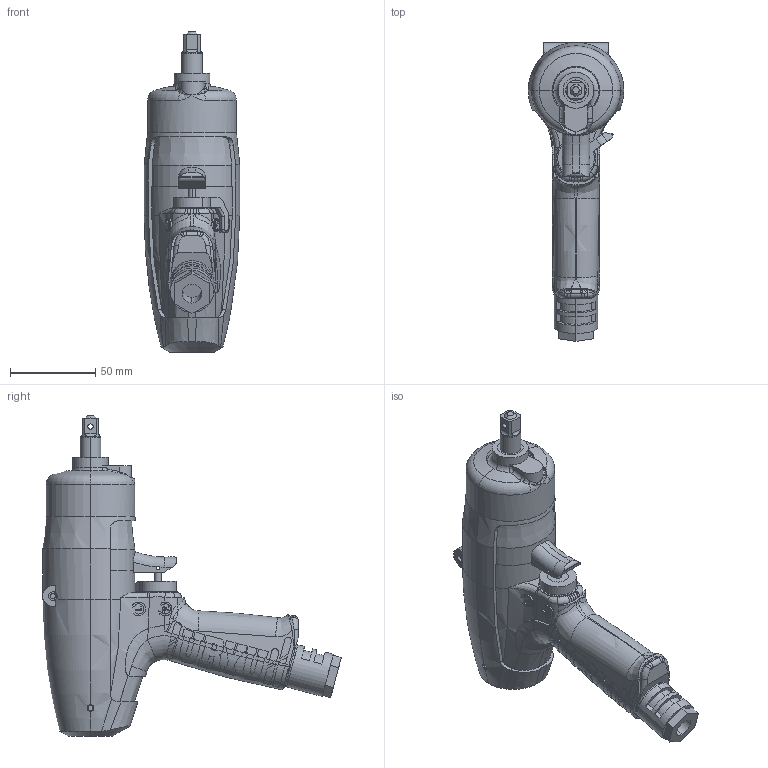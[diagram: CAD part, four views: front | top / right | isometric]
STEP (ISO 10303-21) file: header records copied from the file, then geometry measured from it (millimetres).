
FILE_DESCRIPTION (( 'STEP AP203' ), '1' );
FILE_NAME ('UAT80.STEP', '2015-07-23T03:50:32', ( '' ), ( '' ), 'SwSTEP 2.0', 'SolidWorks 2014', '' );
FILE_SCHEMA (( 'CONFIG_CONTROL_DESIGN' ));
Length unit declared in the file: millimetre
Products named in the file (8): 1150253_UAT80; 4802128_ULT80; 1471072_ULT80; 1478422_UAT80; 1158403_ULT80; UAT80; 1153193_ULT80; 1154393_ULT80
Assembly tree (7 placements, depth 2):
  UAT80
    1153193_ULT80
    1154393_ULT80
    1150253_UAT80
    4802128_ULT80
    1471072_ULT80
    1478422_UAT80
    1158403_ULT80
Bounding box: 56 x 174.82 x 187.5 mm (x, y, z)
Volume: 424846.2 mm3; surface area: 106771.3 mm2
Topology: 7 solids, 7 shells, 1294 faces, 3562 edges, 2296 vertices
Faces by surface type: plane 725, bspline 254, cylinder 237, torus 50, cone 28
Entity records: 62041 total; most frequent: CARTESIAN_POINT 31913, ORIENTED_EDGE 7104, DIRECTION 4629, EDGE_CURVE 3552, VERTEX_POINT 2296, AXIS2_PLACEMENT_3D 1555, LINE 1519, VECTOR 1519
